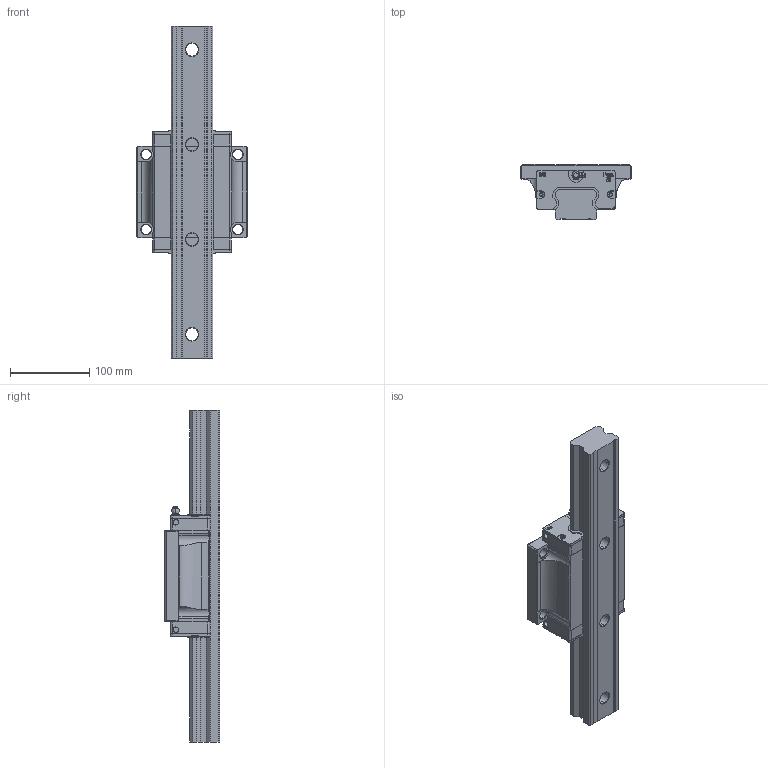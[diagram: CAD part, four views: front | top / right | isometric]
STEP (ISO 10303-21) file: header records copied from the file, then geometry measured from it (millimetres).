
FILE_DESCRIPTION (( 'STEP AP203' ), '1' );
FILE_NAME ('BGCH55FN.STEP', '2025-10-20T07:38:58', ( '' ), ( '' ), 'SwSTEP 2.0', 'SolidWorks 2020', '' );
FILE_SCHEMA (( 'CONFIG_CONTROL_DESIGN' ));
Length unit declared in the file: millimetre
Products named in the file (5): BG55端防塵; NGX04; BGXH55FN; BGCH55FN; BGR55-L420
Assembly tree (5 placements, depth 2):
  BGCH55FN
    BGR55-L420
    BGXH55FN
    BG55端防塵  x2
    NGX04
Bounding box: 139.95 x 70 x 420 mm (x, y, z)
Volume: 1468405.1 mm3; surface area: 198874.2 mm2
Topology: 7 solids, 7 shells, 899 faces, 2474 edges, 1636 vertices
Faces by surface type: plane 662, cylinder 142, cone 69, bspline 22, torus 4
Entity records: 20622 total; most frequent: CARTESIAN_POINT 4421, ORIENTED_EDGE 3324, DIRECTION 3127, EDGE_CURVE 1662, VECTOR 1239, LINE 1239, VERTEX_POINT 1096, AXIS2_PLACEMENT_3D 944
